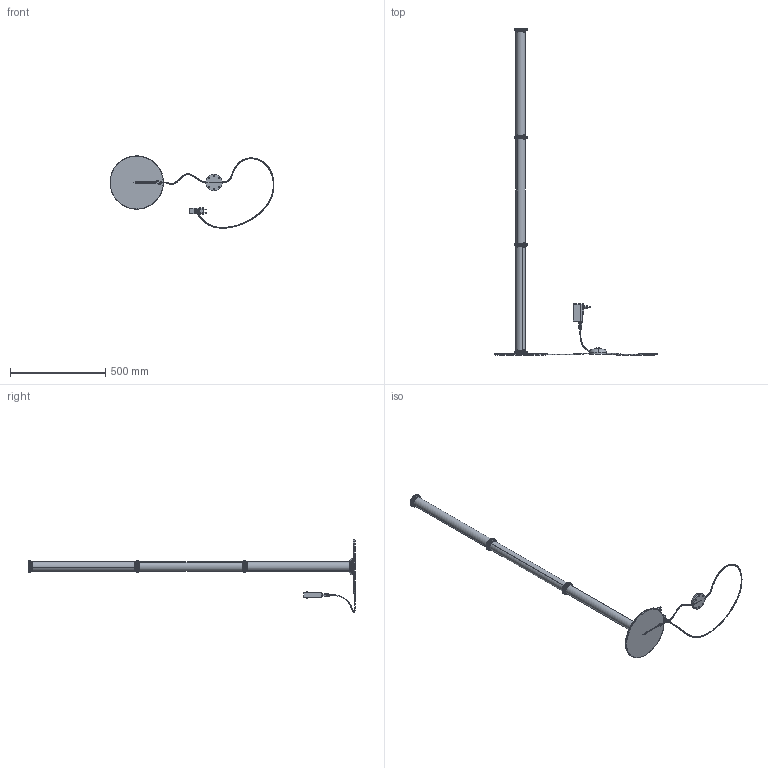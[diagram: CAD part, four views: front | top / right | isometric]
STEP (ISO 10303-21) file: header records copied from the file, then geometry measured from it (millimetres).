
FILE_DESCRIPTION (( 'STEP AP203' ), '1' );
FILE_NAME ('FBN05.LP01.AF01.R00 Render.STEP', '2025-05-05T14:27:25', ( '' ), ( '' ), 'SwSTEP 2.0', 'SolidWorks 2024', '' );
FILE_SCHEMA (( 'CONFIG_CONTROL_DESIGN' ));
Length unit declared in the file: millimetre
Products named in the file (22): Alimentatore 60W 24V - Relco; FBN05.LP01.C001.R00; M79C_Standard; FBN05.LP01.AF01.R00 Render; FBN05.LS03.C003.R10; FBN05.LS03.C009.R10; FBN05.LP01.C005.R00; EA Pedaliera Dimmer DMPL_DIMMER TENSIONE 24V 5A NERO COD. DMPL1.T2.BS.4400X.----; FBN05.LP01.C003.R00; FBN05.LS03.C014.R10; Spina Europa; FBN05.LS03.C006.R10; FBN05.LS03.C001.R10; FBN05.LS04.C008.R10; FBN05.LS03.C010.R10; FBN05.LS04.C009.R10; UE79 36-24V; FBN05.LS03.C015.R10; FBN05.LS03.C007.R10; FBN05.LP01.C090.R00; FBN05.LP01.AM90.R00; FBN05.LP01.C004.R00
Assembly tree (102 placements, depth 4):
  FBN05.LP01.AF01.R00 Render
    FBN05.LP01.C001.R00
    FBN05.LS03.C015.R10  x3
    FBN05.LS03.C009.R10  x4
    FBN05.LS03.C010.R10  x2
    FBN05.LS03.C014.R10  x64
    FBN05.LS03.C001.R10
    FBN05.LS04.C009.R10  x2
    FBN05.LS03.C007.R10  x6
    FBN05.LS04.C008.R10  x2
    FBN05.LS03.C006.R10  x6
    FBN05.LS03.C003.R10
    FBN05.LP01.C005.R00
    FBN05.LP01.C003.R00
    FBN05.LP01.AM90.R00
      FBN05.LP01.C090.R00
      Alimentatore 60W 24V - Relco
        UE79 36-24V
        Spina Europa
        M79C_Standard
      EA Pedaliera Dimmer DMPL_DIMMER TENSIONE 24V 5A NERO COD. DMPL1.T2.BS.4400X.----
    FBN05.LP01.C004.R00
Bounding box: 859.97 x 1715.1 x 379.57 mm (x, y, z)
Volume: 1651125 mm3; surface area: 1252017.8 mm2
Topology: 103 solids, 103 shells, 3230 faces, 7962 edges, 5046 vertices
Faces by surface type: cylinder 1318, plane 1044, cone 336, sphere 258, bspline 258, torus 16
Full cylindrical faces by diameter (mm): 10 x1
Entity records: 66655 total; most frequent: CARTESIAN_POINT 28061, ORIENTED_EDGE 7356, DIRECTION 6619, EDGE_CURVE 3678, AXIS2_PLACEMENT_3D 2428, VERTEX_POINT 2395, LINE 1763, VECTOR 1763
